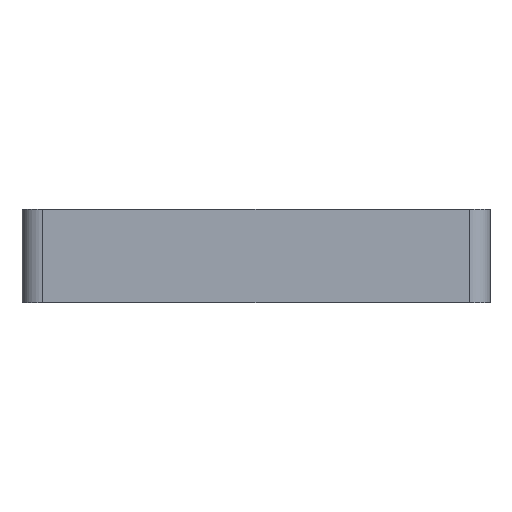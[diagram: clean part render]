
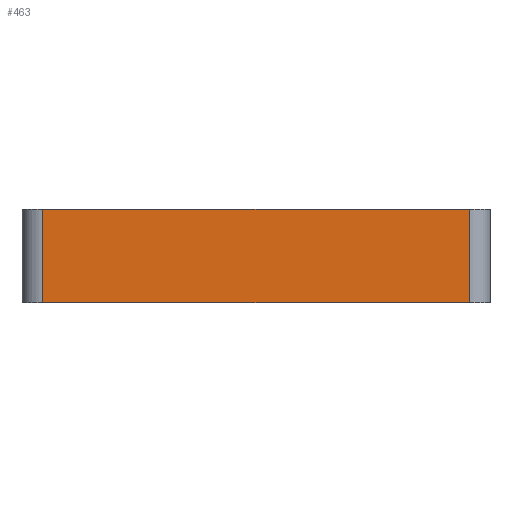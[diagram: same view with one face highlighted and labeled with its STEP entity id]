
A CAD part, left-side view. The second image highlights one B-rep face of the part: STEP entity #463.
In plain terms, the highlighted planar face has unit normal (-1, 0, 0).
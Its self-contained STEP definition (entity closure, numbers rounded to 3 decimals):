
#21 = CARTESIAN_POINT ( 'NONE',  ( 0., 43., 9. ) ) ;
#53 = LINE ( 'NONE', #1753, #117 ) ;
#57 = VECTOR ( 'NONE', #1776, 1000. ) ;
#104 = VECTOR ( 'NONE', #1709, 1000. ) ;
#112 = LINE ( 'NONE', #1707, #104 ) ;
#116 = LINE ( 'NONE', #1775, #57 ) ;
#117 = VECTOR ( 'NONE', #1754, 1000. ) ;
#264 = ORIENTED_EDGE ( 'NONE', *, *, #1223, .T. ) ;
#282 = VERTEX_POINT ( 'NONE', #21 ) ;
#283 = VERTEX_POINT ( 'NONE', #2923 ) ;
#332 = ORIENTED_EDGE ( 'NONE', *, *, #1192, .T. ) ;
#360 = ORIENTED_EDGE ( 'NONE', *, *, #1213, .T. ) ;
#463 = ADVANCED_FACE ( 'NONE', ( #1473 ), #695, .F. ) ;
#567 = ORIENTED_EDGE ( 'NONE', *, *, #1226, .F. ) ;
#695 = PLANE ( 'NONE',  #1262 ) ;
#700 = CARTESIAN_POINT ( 'NONE',  ( 0., 0., 9. ) ) ;
#733 = DIRECTION ( 'NONE',  ( 0., 0., -1. ) ) ;
#741 = DIRECTION ( 'NONE',  ( 1., 0., 0. ) ) ;
#958 = EDGE_LOOP ( 'NONE', ( #332, #360, #567, #264 ) ) ;
#1192 = EDGE_CURVE ( 'NONE', #1313, #1378, #112, .T. ) ;
#1213 = EDGE_CURVE ( 'NONE', #1378, #283, #53, .T. ) ;
#1223 = EDGE_CURVE ( 'NONE', #282, #1313, #116, .T. ) ;
#1226 = EDGE_CURVE ( 'NONE', #282, #283, #1416, .T. ) ;
#1262 = AXIS2_PLACEMENT_3D ( 'NONE', #700, #741, #733 ) ;
#1313 = VERTEX_POINT ( 'NONE', #1811 ) ;
#1378 = VERTEX_POINT ( 'NONE', #1833 ) ;
#1411 = VECTOR ( 'NONE', #1782, 1000. ) ;
#1416 = LINE ( 'NONE', #1781, #1411 ) ;
#1473 = FACE_OUTER_BOUND ( 'NONE', #958, .T. ) ;
#1707 = CARTESIAN_POINT ( 'NONE',  ( 0., 0., 0. ) ) ;
#1709 = DIRECTION ( 'NONE',  ( 0., -1., 0. ) ) ;
#1753 = CARTESIAN_POINT ( 'NONE',  ( 0., 2., 9. ) ) ;
#1754 = DIRECTION ( 'NONE',  ( 0., 0., 1. ) ) ;
#1775 = CARTESIAN_POINT ( 'NONE',  ( 0., 43., 9. ) ) ;
#1776 = DIRECTION ( 'NONE',  ( 0., 0., -1. ) ) ;
#1781 = CARTESIAN_POINT ( 'NONE',  ( 0., 0., 9. ) ) ;
#1782 = DIRECTION ( 'NONE',  ( 0., -1., 0. ) ) ;
#1811 = CARTESIAN_POINT ( 'NONE',  ( 0., 43., 0. ) ) ;
#1833 = CARTESIAN_POINT ( 'NONE',  ( 0., 2., 0. ) ) ;
#2923 = CARTESIAN_POINT ( 'NONE',  ( 0., 2., 9. ) ) ;
